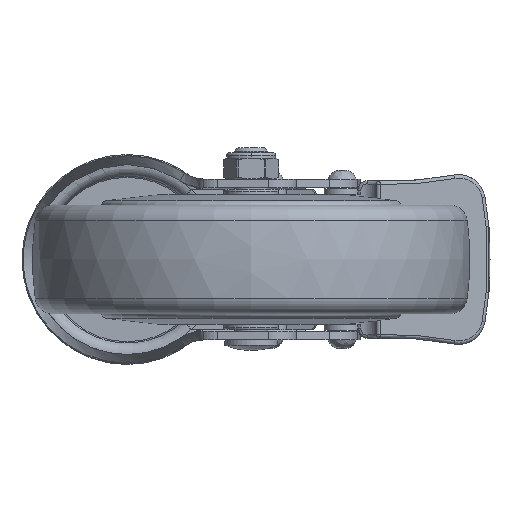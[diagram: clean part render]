
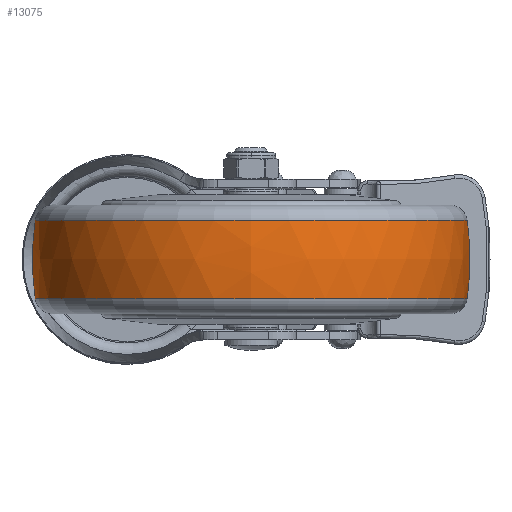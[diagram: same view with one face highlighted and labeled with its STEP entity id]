
A CAD part, front view. The second image highlights one B-rep face of the part: STEP entity #13075.
In plain terms, the highlighted free-form (B-spline) face has degree [3, 3] with [7, 4] control points.
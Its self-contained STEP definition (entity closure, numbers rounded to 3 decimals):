
#12526=CARTESIAN_POINT('',(11.2,0.,0.));
#12527=DIRECTION('',(-1.,0.,0.));
#12528=DIRECTION('',(0.,1.,0.));
#12529=AXIS2_PLACEMENT_3D('',#12526,#12527,#12528);
#12531=CARTESIAN_POINT('',(0.,-17.482,0.));
#12532=DIRECTION('',(0.,0.,1.));
#12533=DIRECTION('',(0.14,0.99,0.));
#12534=AXIS2_PLACEMENT_3D('',#12531,#12532,#12533);
#12541=CARTESIAN_POINT('',(0.,17.482,0.));
#12542=DIRECTION('',(0.,0.,-1.));
#12543=DIRECTION('',(0.14,-0.99,0.));
#12544=AXIS2_PLACEMENT_3D('',#12541,#12542,#12543);
#12753=CARTESIAN_POINT('',(-11.2,0.,0.));
#12754=DIRECTION('',(-1.,0.,0.));
#12755=DIRECTION('',(0.,1.,0.));
#12756=AXIS2_PLACEMENT_3D('',#12753,#12754,#12755);
#12940=CARTESIAN_POINT('',(11.2,61.73,0.));
#12941=CARTESIAN_POINT('',(-11.2,61.73,0.));
#12942=VERTEX_POINT('',#12940);
#12943=VERTEX_POINT('',#12941);
#12988=CARTESIAN_POINT('',(11.2,-61.73,
0.));
#12989=CARTESIAN_POINT('',(-11.2,-61.73,
0.));
#12990=VERTEX_POINT('',#12988);
#12991=VERTEX_POINT('',#12989);
#13036=CARTESIAN_POINT('',(11.645,61.544,3.872));
#13037=CARTESIAN_POINT('',(3.909,62.68,3.943));
#13038=CARTESIAN_POINT('',(-3.909,62.68,
3.943));
#13039=CARTESIAN_POINT('',(-11.645,61.544,
3.872));
#13040=CARTESIAN_POINT('',(11.645,63.927,
-34.002));
#13041=CARTESIAN_POINT('',(3.909,65.107,
-34.63));
#13042=CARTESIAN_POINT('',(-3.909,65.107,
-34.63));
#13043=CARTESIAN_POINT('',(-11.645,63.927,
-34.002));
#13044=CARTESIAN_POINT('',(11.645,37.949,
-61.666));
#13045=CARTESIAN_POINT('',(3.909,38.649,
-62.804));
#13046=CARTESIAN_POINT('',(-3.909,38.649,
-62.804));
#13047=CARTESIAN_POINT('',(-11.645,37.949,
-61.666));
#13048=CARTESIAN_POINT('',(11.645,0.,-61.666));
#13049=CARTESIAN_POINT('',(3.909,0.,-62.804));
#13050=CARTESIAN_POINT('',(-3.909,0.,-62.804));
#13051=CARTESIAN_POINT('',(-11.645,0.,
-61.666));
#13052=CARTESIAN_POINT('',(11.645,-37.949,
-61.666));
#13053=CARTESIAN_POINT('',(3.909,-38.649,
-62.804));
#13054=CARTESIAN_POINT('',(-3.909,-38.649,
-62.804));
#13055=CARTESIAN_POINT('',(-11.645,-37.949,
-61.666));
#13056=CARTESIAN_POINT('',(11.645,-63.927,
-34.002));
#13057=CARTESIAN_POINT('',(3.909,-65.107,
-34.63));
#13058=CARTESIAN_POINT('',(-3.909,-65.107,
-34.63));
#13059=CARTESIAN_POINT('',(-11.645,-63.927,
-34.002));
#13060=CARTESIAN_POINT('',(11.645,-61.544,
3.872));
#13061=CARTESIAN_POINT('',(3.909,-62.68,
3.943));
#13062=CARTESIAN_POINT('',(-3.909,-62.68,
3.943));
#13063=CARTESIAN_POINT('',(-11.645,-61.544,
3.872));
#13064=(BOUNDED_SURFACE()B_SPLINE_SURFACE(3,3,((#13036,#13037,#13038,#13039),(
#13040,#13041,#13042,#13043),(#13044,#13045,#13046,#13047),(#13048,#13049,
#13050,#13051),(#13052,#13053,#13054,#13055),(#13056,#13057,#13058,#13059),(
#13060,#13061,#13062,#13063)),.UNSPECIFIED.,.F.,.F.,.F.)B_SPLINE_SURFACE_WITH_KNOTS((4,3,4),(4,4),(0.,1.,2.),(0.,1.),.UNSPECIFIED.)GEOMETRIC_REPRESENTATION_ITEM()RATIONAL_B_SPLINE_SURFACE(((1.194,1.185,
1.185,1.194),(0.943,0.936,
0.936,0.943),(0.943,0.936,
0.936,0.943),(1.194,1.185,
1.185,1.194),(0.943,0.936,
0.936,0.943),(0.943,0.936,
0.936,0.943),(1.194,1.185,
1.185,1.194)))REPRESENTATION_ITEM('')SURFACE());
#13066=ORIENTED_EDGE('',*,*,#13065,.T.);
#13068=ORIENTED_EDGE('',*,*,#13067,.T.);
#13070=ORIENTED_EDGE('',*,*,#13069,.F.);
#13072=ORIENTED_EDGE('',*,*,#13071,.F.);
#13073=EDGE_LOOP('',(#13066,#13068,#13070,#13072));
#13074=FACE_OUTER_BOUND('',#13073,.F.);
#12530=CIRCLE('',#12529,61.73);
#12535=CIRCLE('',#12534,80.);
#12545=CIRCLE('',#12544,80.);
#12757=CIRCLE('',#12756,61.73);
#13065=EDGE_CURVE('',#12942,#12943,#12535,.T.);
#13067=EDGE_CURVE('',#12943,#12991,#12757,.T.);
#13069=EDGE_CURVE('',#12990,#12991,#12545,.T.);
#13071=EDGE_CURVE('',#12942,#12990,#12530,.T.);
#13075=ADVANCED_FACE('',(#13074),#13064,.T.);
